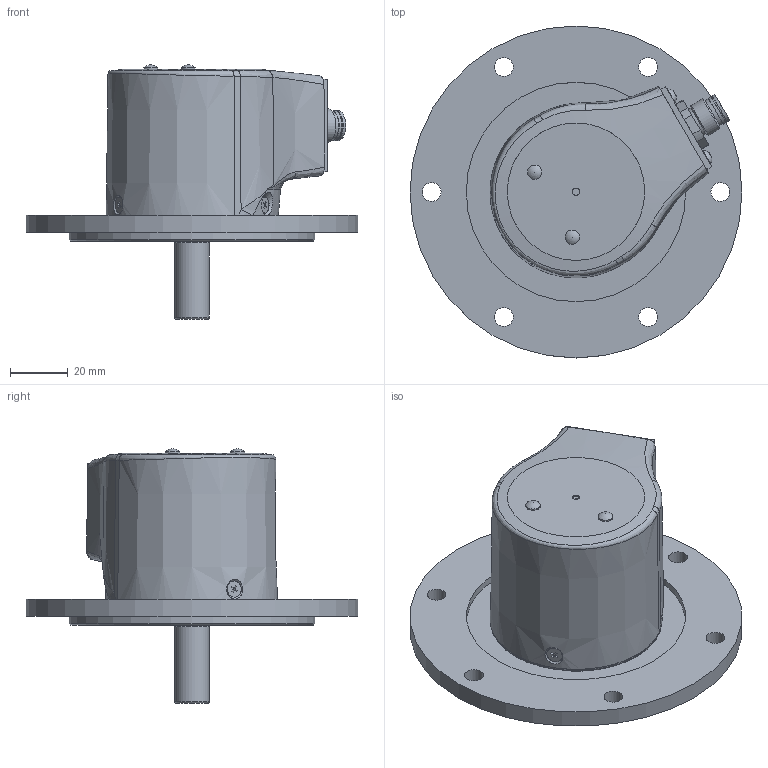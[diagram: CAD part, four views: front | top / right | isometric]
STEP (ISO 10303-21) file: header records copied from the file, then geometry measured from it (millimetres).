
FILE_DESCRIPTION(/* description */ ('Unknown'),/* implementation_level */ '2;1');
FILE_NAME(/* name */ 'EAL_EAML_115_A_M12R',/* time_stamp */ '2018-04-20T12:07:59+02:00',/* author */ ('Unknown'),/* organization */ ('Unknown'),/* preprocessor_version */ 'ST-DEVELOPER v16.7',/* originating_system */ 'DEX',/* authorisation */ $);
FILE_SCHEMA (('AUTOMOTIVE_DESIGN {1 0 10303 214 3 1 1}'));
Length unit declared in the file: millimetre
Products named in the file (1): EAL_EAML_115_A_M12R
Bounding box: 115 x 115 x 88.04 mm (x, y, z)
Volume: 130935.9 mm3; surface area: 63591.7 mm2
Topology: 1 solids, 16 shells, 584 faces, 1378 edges, 909 vertices
Faces by surface type: plane 291, cylinder 146, cone 81, torus 37, bspline 29
Full cylindrical faces by diameter (mm): 0.9 x16, 1.5 x8, 2.013 x7, 2.459 x10, 2.5 x1, 3 x6, 3.4 x3, 4.98 x1, 5 x3, 5.6 x3, 6 x5, 6.5 x6, 7.98 x1, 8 x7, 8.25 x1, 8.772 x1, 10 x6, 10.4 x3, 12 x2, 12.4 x1, 13 x1, 14.53 x1, 15.2 x1, 22 x4, 22.1 x2, 22.5 x1, 27 x1, 29 x1, 51.2 x1, 54 x3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
Entity records: 16667 total; most frequent: CARTESIAN_POINT 4931, DIRECTION 2362, ORIENTED_EDGE 2046, EDGE_CURVE 1023, AXIS2_PLACEMENT_3D 984, FACE_BOUND 937, EDGE_LOOP 917, VERTEX_POINT 800
